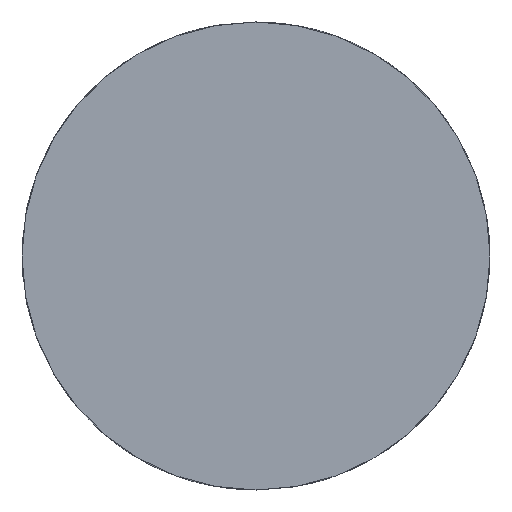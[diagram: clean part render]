
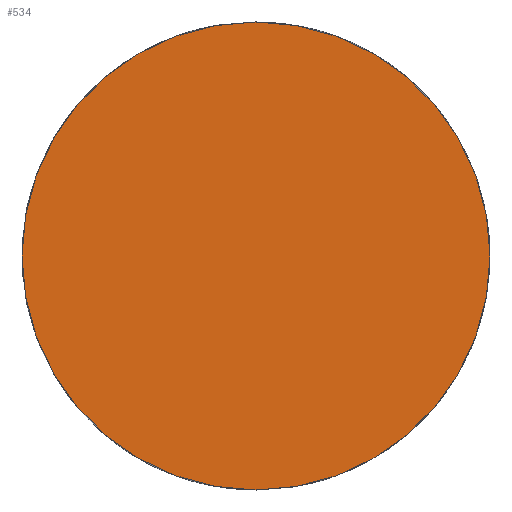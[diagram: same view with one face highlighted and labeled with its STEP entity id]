
A CAD part, front view. The second image highlights one B-rep face of the part: STEP entity #534.
In plain terms, the highlighted planar face has unit normal (0, -1, 0).
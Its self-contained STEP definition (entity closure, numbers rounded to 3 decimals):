
#113 = AXIS2_PLACEMENT_3D ( 'NONE', #1142, #3015, #1458 ) ;
#273 = FACE_OUTER_BOUND ( 'NONE', #2794, .T. ) ;
#522 = VERTEX_POINT ( 'NONE', #1994 ) ;
#534 = ADVANCED_FACE ( 'NONE', ( #273 ), #1349, .F. ) ;
#619 = CIRCLE ( 'NONE', #113, 3.75 ) ;
#1049 = DIRECTION ( 'NONE',  ( 0., 0., 1. ) ) ;
#1051 = AXIS2_PLACEMENT_3D ( 'NONE', #1697, #2014, #1395 ) ;
#1142 = CARTESIAN_POINT ( 'NONE',  ( 0., 0., 0. ) ) ;
#1176 = CIRCLE ( 'NONE', #1051, 3.75 ) ;
#1349 = PLANE ( 'NONE',  #2533 ) ;
#1377 = EDGE_CURVE ( 'NONE', #522, #3056, #1176, .T. ) ;
#1395 = DIRECTION ( 'NONE',  ( 0., 0., 1. ) ) ;
#1398 = CARTESIAN_POINT ( 'NONE',  ( 0., 0., -3.75 ) ) ;
#1458 = DIRECTION ( 'NONE',  ( 0., 0., 1. ) ) ;
#1697 = CARTESIAN_POINT ( 'NONE',  ( 0., 0., 0. ) ) ;
#1772 = ORIENTED_EDGE ( 'NONE', *, *, #3341, .F. ) ;
#1983 = DIRECTION ( 'NONE',  ( 0., 1., 0. ) ) ;
#1994 = CARTESIAN_POINT ( 'NONE',  ( 0., 0., 3.75 ) ) ;
#2014 = DIRECTION ( 'NONE',  ( 0., 1., 0. ) ) ;
#2533 = AXIS2_PLACEMENT_3D ( 'NONE', #2561, #1983, #1049 ) ;
#2561 = CARTESIAN_POINT ( 'NONE',  ( 0., 0., 0. ) ) ;
#2794 = EDGE_LOOP ( 'NONE', ( #1772, #3875 ) ) ;
#3015 = DIRECTION ( 'NONE',  ( 0., 1., 0. ) ) ;
#3056 = VERTEX_POINT ( 'NONE', #1398 ) ;
#3341 = EDGE_CURVE ( 'NONE', #3056, #522, #619, .T. ) ;
#3875 = ORIENTED_EDGE ( 'NONE', *, *, #1377, .F. ) ;
